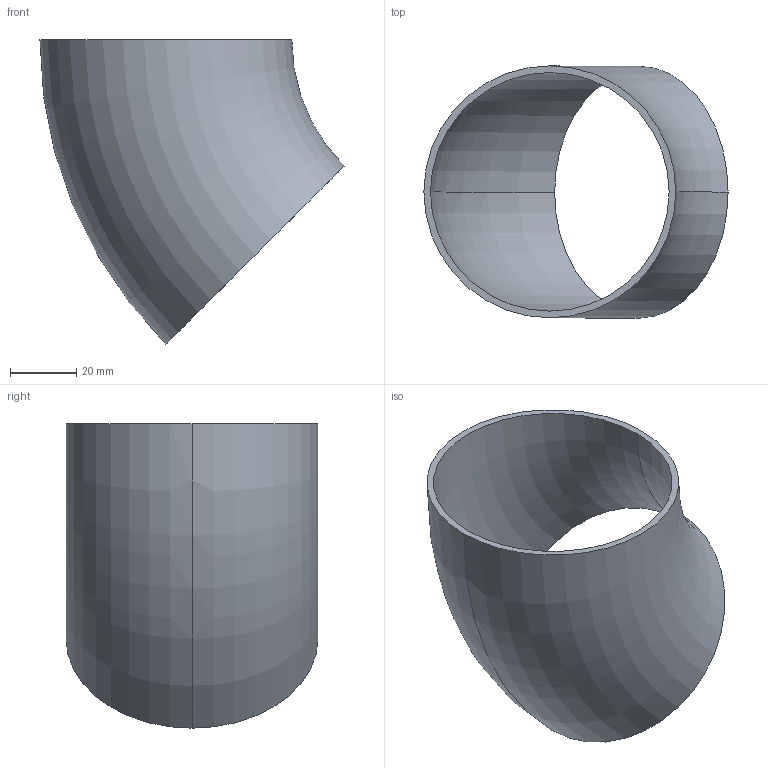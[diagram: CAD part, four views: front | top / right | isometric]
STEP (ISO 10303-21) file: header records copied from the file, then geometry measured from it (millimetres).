
FILE_DESCRIPTION (( 'STEP AP203' ), '1' );
FILE_NAME ('3D_R1650_76.1x2_17351350.STEP', '2024-08-03T08:59:45', ( '' ), ( '' ), 'SwSTEP 2.0', 'SolidWorks 2024', '' );
FILE_SCHEMA (( 'CONFIG_CONTROL_DESIGN' ));
Length unit declared in the file: millimetre
Products named in the file (1): 3D_R1650_76.1x2_17351350
Bounding box: 91.9 x 76.1 x 91.96 mm (x, y, z)
Volume: 33641.5 mm3; surface area: 34572.7 mm2
Topology: 1 solids, 1 shells, 6 faces, 12 edges, 8 vertices
Faces by surface type: torus 4, plane 2
Entity records: 249 total; most frequent: DIRECTION 38, CARTESIAN_POINT 27, ORIENTED_EDGE 24, AXIS2_PLACEMENT_3D 19, EDGE_CURVE 12, CIRCLE 12, PERSON_AND_ORGANIZATION 8, EDGE_LOOP 8
